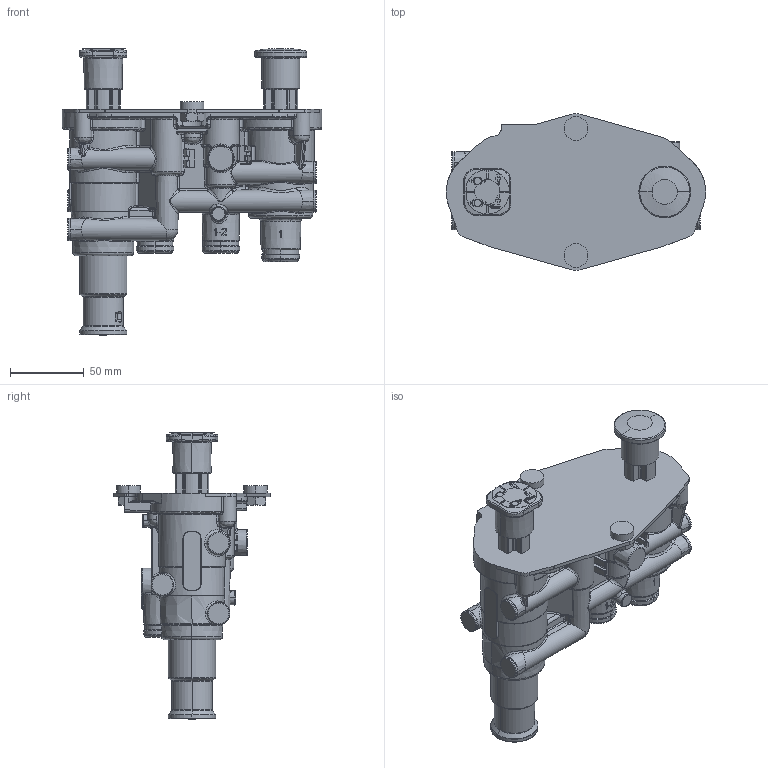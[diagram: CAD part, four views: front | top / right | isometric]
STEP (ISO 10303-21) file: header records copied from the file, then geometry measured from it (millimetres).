
FILE_DESCRIPTION((''),'2;1');
FILE_NAME('352_077_001_ASM_SW0001','2022-05-20T10:32:56',('sripaskaraa'),('Haldex Brake Products'),'CREO PARAMETRIC BY PTC INC, 2018500','CREO PARAMETRIC BY PTC INC, 2018500','');
FILE_SCHEMA(('AUTOMOTIVE_DESIGN { 1 0 10303 214 1 1 1 1 }'));
Length unit declared in the file: inch
Products named in the file (1): 352_077_001_ASM_SW0001
Bounding box: 175.35 x 106 x 194.06 mm (x, y, z)
Volume: 607411.6 mm3; surface area: 112958.8 mm2
Topology: 1 solids, 1 shells, 3195 faces, 8055 edges, 4796 vertices
Faces by surface type: plane 1208, bspline 741, cylinder 682, torus 248, sphere 184, cone 126, extrusion 6
Entity records: 178489 total; most frequent: CARTESIAN_POINT 79498, ORIENTED_EDGE 15828, DIRECTION 11963, EDGE_CURVE 7914, VERTEX_POINT 4796, FILL_AREA_STYLE_COLOUR 4782, FILL_AREA_STYLE 4782, SURFACE_STYLE_FILL_AREA 4782
